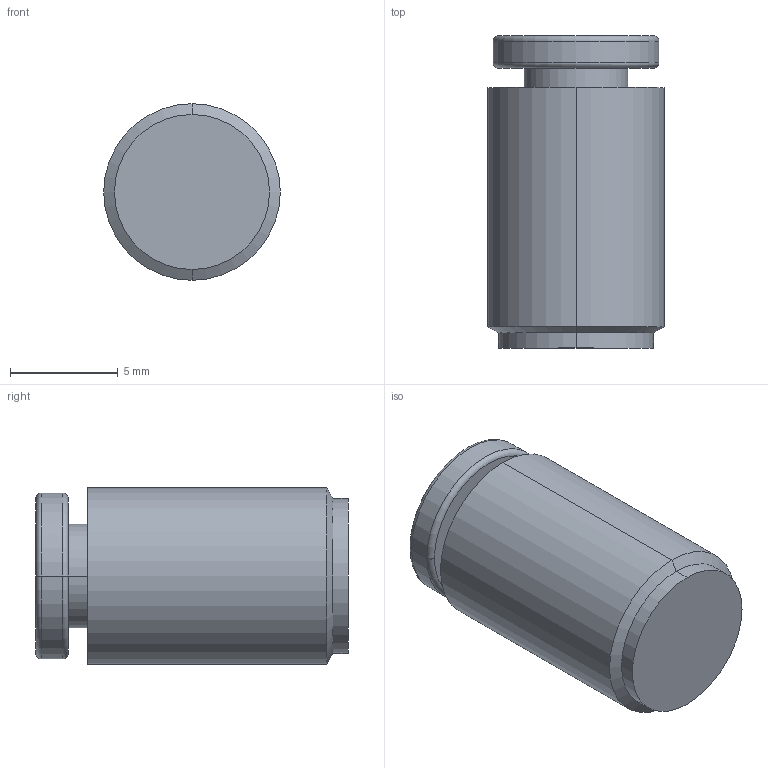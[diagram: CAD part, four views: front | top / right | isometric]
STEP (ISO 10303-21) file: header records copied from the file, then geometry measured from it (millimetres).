
FILE_DESCRIPTION (( 'STEP AP214' ), '1' );
FILE_NAME ('KQ2C04-00A.step.step', '2022-12-12T08:04:41', ( '' ), ( '' ), 'SwSTEP 2.0', 'SolidWorks 2022', '' );
FILE_SCHEMA (( 'AUTOMOTIVE_DESIGN' ));
Length unit declared in the file: millimetre
Products named in the file (3): KQ2C04-00A.step_KQ2(H-N-R-P-C)_C04-00; KQ2C04-00A.step_BUTTON_04; KQ2C04-00A.step
Assembly tree (2 placements, depth 2):
  KQ2C04-00A.step
    KQ2C04-00A.step_KQ2(H-N-R-P-C)_C04-00
    KQ2C04-00A.step_BUTTON_04
Bounding box: 8.2 x 14.5 x 8.2 mm (x, y, z)
Volume: 546.8 mm3; surface area: 1016.7 mm2
Topology: 2 solids, 2 shells, 26 faces, 50 edges, 30 vertices
Faces by surface type: cylinder 12, plane 6, torus 6, cone 2
Entity records: 784 total; most frequent: DIRECTION 148, CARTESIAN_POINT 111, ORIENTED_EDGE 100, AXIS2_PLACEMENT_3D 67, EDGE_CURVE 50, CIRCLE 36, VERTEX_POINT 30, EDGE_LOOP 30
